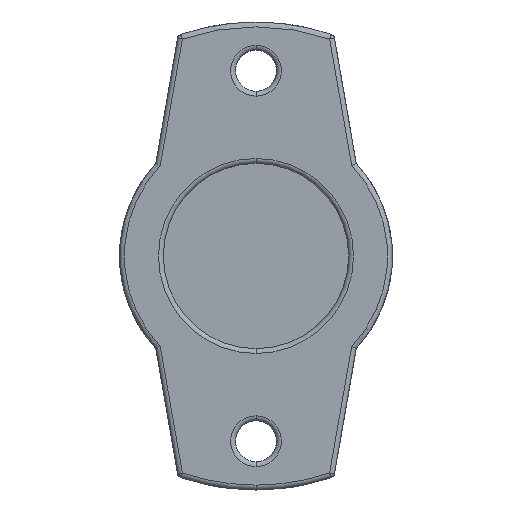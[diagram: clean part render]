
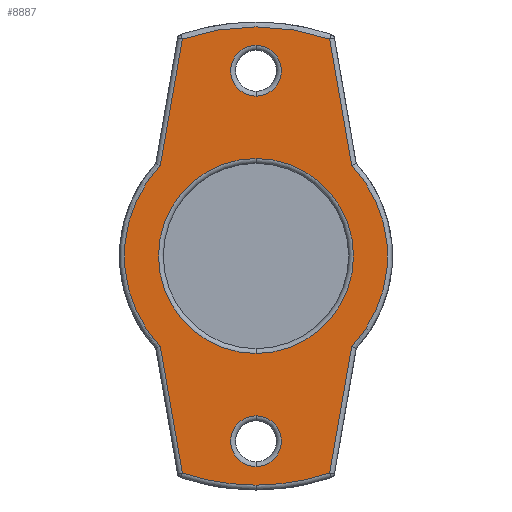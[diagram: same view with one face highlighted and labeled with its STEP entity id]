
A CAD part, left-side view. The second image highlights one B-rep face of the part: STEP entity #8887.
In plain terms, the highlighted planar face has unit normal (-1, 0, 0).
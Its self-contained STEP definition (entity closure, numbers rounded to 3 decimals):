
#5887 = EDGE_CURVE ( 'NONE', #5888, #5889, #12355, .T. ) ;
#5888 = VERTEX_POINT ( 'NONE', #12350 ) ;
#5889 = VERTEX_POINT ( 'NONE', #12349 ) ;
#6000 = VERTEX_POINT ( 'NONE', #12625 ) ;
#6002 = EDGE_CURVE ( 'NONE', #6003, #6000, #12624, .T. ) ;
#6003 = VERTEX_POINT ( 'NONE', #12619 ) ;
#6013 = VERTEX_POINT ( 'NONE', #12640 ) ;
#6015 = EDGE_CURVE ( 'NONE', #6016, #6013, #12639, .T. ) ;
#6016 = VERTEX_POINT ( 'NONE', #12634 ) ;
#8796 = EDGE_CURVE ( 'NONE', #9531, #9534, #14542, .T. ) ;
#8877 = ORIENTED_EDGE ( 'NONE', *, *, #8878, .T. ) ;
#8878 = EDGE_CURVE ( 'NONE', #8904, #8905, #14804, .T. ) ;
#8879 = ORIENTED_EDGE ( 'NONE', *, *, #8880, .T. ) ;
#8880 = EDGE_CURVE ( 'NONE', #8905, #8881, #14796, .T. ) ;
#8881 = VERTEX_POINT ( 'NONE', #14791 ) ;
#8886 = EDGE_CURVE ( 'NONE', #6000, #6003, #14789, .T. ) ;
#8887 = ADVANCED_FACE ( 'NONE', ( #14784, #14783, #14782, #14781 ), #14826, .F. ) ;
#8888 = EDGE_LOOP ( 'NONE', ( #8889, #8892 ) ) ;
#8889 = ORIENTED_EDGE ( 'NONE', *, *, #6002, .T. ) ;
#8890 = EDGE_LOOP ( 'NONE', ( #8893, #8896, #8899, #8902, #8877, #8879, #9372, #9379, #9576 ) ) ;
#8892 = ORIENTED_EDGE ( 'NONE', *, *, #8886, .T. ) ;
#8893 = ORIENTED_EDGE ( 'NONE', *, *, #8894, .T. ) ;
#8894 = EDGE_CURVE ( 'NONE', #5889, #8895, #14821, .T. ) ;
#8895 = VERTEX_POINT ( 'NONE', #14817 ) ;
#8896 = ORIENTED_EDGE ( 'NONE', *, *, #8897, .T. ) ;
#8897 = EDGE_CURVE ( 'NONE', #8895, #8898, #14816, .T. ) ;
#8898 = VERTEX_POINT ( 'NONE', #14811 ) ;
#8899 = ORIENTED_EDGE ( 'NONE', *, *, #8900, .T. ) ;
#8900 = EDGE_CURVE ( 'NONE', #8898, #8901, #14810, .T. ) ;
#8901 = VERTEX_POINT ( 'NONE', #14806 ) ;
#8902 = ORIENTED_EDGE ( 'NONE', *, *, #8903, .T. ) ;
#8903 = EDGE_CURVE ( 'NONE', #8901, #8904, #14858, .T. ) ;
#8904 = VERTEX_POINT ( 'NONE', #14853 ) ;
#8905 = VERTEX_POINT ( 'NONE', #14852 ) ;
#8914 = EDGE_CURVE ( 'NONE', #6013, #6016, #14883, .T. ) ;
#9339 = ORIENTED_EDGE ( 'NONE', *, *, #9533, .T. ) ;
#9340 = ORIENTED_EDGE ( 'NONE', *, *, #8796, .T. ) ;
#9372 = ORIENTED_EDGE ( 'NONE', *, *, #9374, .T. ) ;
#9374 = EDGE_CURVE ( 'NONE', #8881, #9376, #15625, .T. ) ;
#9376 = VERTEX_POINT ( 'NONE', #15621 ) ;
#9379 = ORIENTED_EDGE ( 'NONE', *, *, #9380, .T. ) ;
#9380 = EDGE_CURVE ( 'NONE', #9376, #5888, #15620, .T. ) ;
#9531 = VERTEX_POINT ( 'NONE', #18185 ) ;
#9533 = EDGE_CURVE ( 'NONE', #9534, #9531, #18184, .T. ) ;
#9534 = VERTEX_POINT ( 'NONE', #18179 ) ;
#9576 = ORIENTED_EDGE ( 'NONE', *, *, #5887, .T. ) ;
#9577 = EDGE_LOOP ( 'NONE', ( #9578, #9579 ) ) ;
#9578 = ORIENTED_EDGE ( 'NONE', *, *, #6015, .T. ) ;
#9579 = ORIENTED_EDGE ( 'NONE', *, *, #8914, .T. ) ;
#9580 = EDGE_LOOP ( 'NONE', ( #9339, #9340 ) ) ;
#12349 = CARTESIAN_POINT ( 'NONE',  ( -24.624, -2.329, -22.251 ) ) ;
#12350 = CARTESIAN_POINT ( 'NONE',  ( -24.624, 5.229, -23.5 ) ) ;
#12351 = DIRECTION ( 'NONE',  ( 0., 0., -1. ) ) ;
#12352 = DIRECTION ( 'NONE',  ( -1., 0., 0. ) ) ;
#12353 = CARTESIAN_POINT ( 'NONE',  ( -24.624, 5.229, 0. ) ) ;
#12354 = AXIS2_PLACEMENT_3D ( 'NONE', #12353, #12352, #12351 ) ;
#12355 = CIRCLE ( 'NONE', #12354, 23.5 ) ;
#12619 = CARTESIAN_POINT ( 'NONE',  ( -24.624, 5.229, -10. ) ) ;
#12620 = DIRECTION ( 'NONE',  ( 0., 0., -1. ) ) ;
#12621 = DIRECTION ( 'NONE',  ( 1., 0., 0. ) ) ;
#12622 = CARTESIAN_POINT ( 'NONE',  ( -24.624, 5.229, 0. ) ) ;
#12623 = AXIS2_PLACEMENT_3D ( 'NONE', #12622, #12621, #12620 ) ;
#12624 = CIRCLE ( 'NONE', #12623, 10. ) ;
#12625 = CARTESIAN_POINT ( 'NONE',  ( -24.624, 5.229, 10. ) ) ;
#12634 = CARTESIAN_POINT ( 'NONE',  ( -24.624, 5.229, -21.6 ) ) ;
#12635 = DIRECTION ( 'NONE',  ( 0., 0., -1. ) ) ;
#12636 = DIRECTION ( 'NONE',  ( 1., 0., 0. ) ) ;
#12637 = CARTESIAN_POINT ( 'NONE',  ( -24.624, 5.229, -19. ) ) ;
#12638 = AXIS2_PLACEMENT_3D ( 'NONE', #12637, #12636, #12635 ) ;
#12639 = CIRCLE ( 'NONE', #12638, 2.6 ) ;
#12640 = CARTESIAN_POINT ( 'NONE',  ( -24.624, 5.229, -16.4 ) ) ;
#14536 = DIRECTION ( 'NONE',  ( 0., 0., -1. ) ) ;
#14537 = DIRECTION ( 'NONE',  ( 1., 0., 0. ) ) ;
#14538 = CARTESIAN_POINT ( 'NONE',  ( -24.624, 5.229, 19. ) ) ;
#14540 = AXIS2_PLACEMENT_3D ( 'NONE', #14538, #14537, #14536 ) ;
#14542 = CIRCLE ( 'NONE', #14540, 2.6 ) ;
#14781 = FACE_BOUND ( 'NONE', #9580, .T. ) ;
#14782 = FACE_BOUND ( 'NONE', #9577, .T. ) ;
#14783 = FACE_OUTER_BOUND ( 'NONE', #8890, .T. ) ;
#14784 = FACE_BOUND ( 'NONE', #8888, .T. ) ;
#14785 = DIRECTION ( 'NONE',  ( 0., 0., -1. ) ) ;
#14786 = DIRECTION ( 'NONE',  ( 1., 0., 0. ) ) ;
#14787 = CARTESIAN_POINT ( 'NONE',  ( -24.624, 5.229, 0. ) ) ;
#14788 = AXIS2_PLACEMENT_3D ( 'NONE', #14787, #14786, #14785 ) ;
#14789 = CIRCLE ( 'NONE', #14788, 10. ) ;
#14791 = CARTESIAN_POINT ( 'NONE',  ( -24.624, 15.045, -9.268 ) ) ;
#14792 = DIRECTION ( 'NONE',  ( 0., 0., -1. ) ) ;
#14793 = DIRECTION ( 'NONE',  ( -1., 0., 0. ) ) ;
#14794 = CARTESIAN_POINT ( 'NONE',  ( -24.624, 5.229, 0. ) ) ;
#14795 = AXIS2_PLACEMENT_3D ( 'NONE', #14794, #14793, #14792 ) ;
#14796 = CIRCLE ( 'NONE', #14795, 13.5 ) ;
#14797 = DIRECTION ( 'NONE',  ( 0., 0.171, -0.985 ) ) ;
#14798 = VECTOR ( 'NONE', #14797, 1000. ) ;
#14799 = CARTESIAN_POINT ( 'NONE',  ( -24.624, 15.019, 9.414 ) ) ;
#14804 = LINE ( 'NONE', #14799, #14798 ) ;
#14806 = CARTESIAN_POINT ( 'NONE',  ( -24.624, -2.329, 22.251 ) ) ;
#14807 = DIRECTION ( 'NONE',  ( 0., 0.171, 0.985 ) ) ;
#14808 = VECTOR ( 'NONE', #14807, 1000. ) ;
#14809 = CARTESIAN_POINT ( 'NONE',  ( -24.624, -2.279, 22.542 ) ) ;
#14810 = LINE ( 'NONE', #14809, #14808 ) ;
#14811 = CARTESIAN_POINT ( 'NONE',  ( -24.624, -4.588, 9.268 ) ) ;
#14812 = DIRECTION ( 'NONE',  ( 0., 0., -1. ) ) ;
#14813 = DIRECTION ( 'NONE',  ( -1., 0., 0. ) ) ;
#14814 = CARTESIAN_POINT ( 'NONE',  ( -24.624, 5.229, 0. ) ) ;
#14815 = AXIS2_PLACEMENT_3D ( 'NONE', #14814, #14813, #14812 ) ;
#14816 = CIRCLE ( 'NONE', #14815, 13.5 ) ;
#14817 = CARTESIAN_POINT ( 'NONE',  ( -24.624, -4.588, -9.268 ) ) ;
#14818 = DIRECTION ( 'NONE',  ( 0., -0.171, 0.985 ) ) ;
#14819 = VECTOR ( 'NONE', #14818, 1000. ) ;
#14820 = CARTESIAN_POINT ( 'NONE',  ( -24.624, -4.562, -9.414 ) ) ;
#14821 = LINE ( 'NONE', #14820, #14819 ) ;
#14822 = DIRECTION ( 'NONE',  ( 0., 0., -1. ) ) ;
#14823 = DIRECTION ( 'NONE',  ( 1., 0., 0. ) ) ;
#14824 = CARTESIAN_POINT ( 'NONE',  ( -24.624, 16.229, 0. ) ) ;
#14825 = AXIS2_PLACEMENT_3D ( 'NONE', #14824, #14823, #14822 ) ;
#14826 = PLANE ( 'NONE',  #14825 ) ;
#14852 = CARTESIAN_POINT ( 'NONE',  ( -24.624, 15.045, 9.268 ) ) ;
#14853 = CARTESIAN_POINT ( 'NONE',  ( -24.624, 12.786, 22.251 ) ) ;
#14854 = DIRECTION ( 'NONE',  ( 0., 0., -1. ) ) ;
#14855 = DIRECTION ( 'NONE',  ( -1., 0., 0. ) ) ;
#14856 = CARTESIAN_POINT ( 'NONE',  ( -24.624, 5.229, 0. ) ) ;
#14857 = AXIS2_PLACEMENT_3D ( 'NONE', #14856, #14855, #14854 ) ;
#14858 = CIRCLE ( 'NONE', #14857, 23.5 ) ;
#14879 = DIRECTION ( 'NONE',  ( 0., 0., -1. ) ) ;
#14880 = DIRECTION ( 'NONE',  ( 1., 0., 0. ) ) ;
#14881 = CARTESIAN_POINT ( 'NONE',  ( -24.624, 5.229, -19. ) ) ;
#14882 = AXIS2_PLACEMENT_3D ( 'NONE', #14881, #14880, #14879 ) ;
#14883 = CIRCLE ( 'NONE', #14882, 2.6 ) ;
#15616 = DIRECTION ( 'NONE',  ( 0., 0., -1. ) ) ;
#15617 = DIRECTION ( 'NONE',  ( -1., 0., 0. ) ) ;
#15618 = CARTESIAN_POINT ( 'NONE',  ( -24.624, 5.229, 0. ) ) ;
#15619 = AXIS2_PLACEMENT_3D ( 'NONE', #15618, #15617, #15616 ) ;
#15620 = CIRCLE ( 'NONE', #15619, 23.5 ) ;
#15621 = CARTESIAN_POINT ( 'NONE',  ( -24.624, 12.786, -22.251 ) ) ;
#15622 = DIRECTION ( 'NONE',  ( 0., -0.171, -0.985 ) ) ;
#15623 = VECTOR ( 'NONE', #15622, 1000. ) ;
#15624 = CARTESIAN_POINT ( 'NONE',  ( -24.624, 12.736, -22.542 ) ) ;
#15625 = LINE ( 'NONE', #15624, #15623 ) ;
#18179 = CARTESIAN_POINT ( 'NONE',  ( -24.624, 5.229, 16.4 ) ) ;
#18180 = DIRECTION ( 'NONE',  ( 0., 0., -1. ) ) ;
#18181 = DIRECTION ( 'NONE',  ( 1., 0., 0. ) ) ;
#18182 = CARTESIAN_POINT ( 'NONE',  ( -24.624, 5.229, 19. ) ) ;
#18183 = AXIS2_PLACEMENT_3D ( 'NONE', #18182, #18181, #18180 ) ;
#18184 = CIRCLE ( 'NONE', #18183, 2.6 ) ;
#18185 = CARTESIAN_POINT ( 'NONE',  ( -24.624, 5.229, 21.6 ) ) ;
